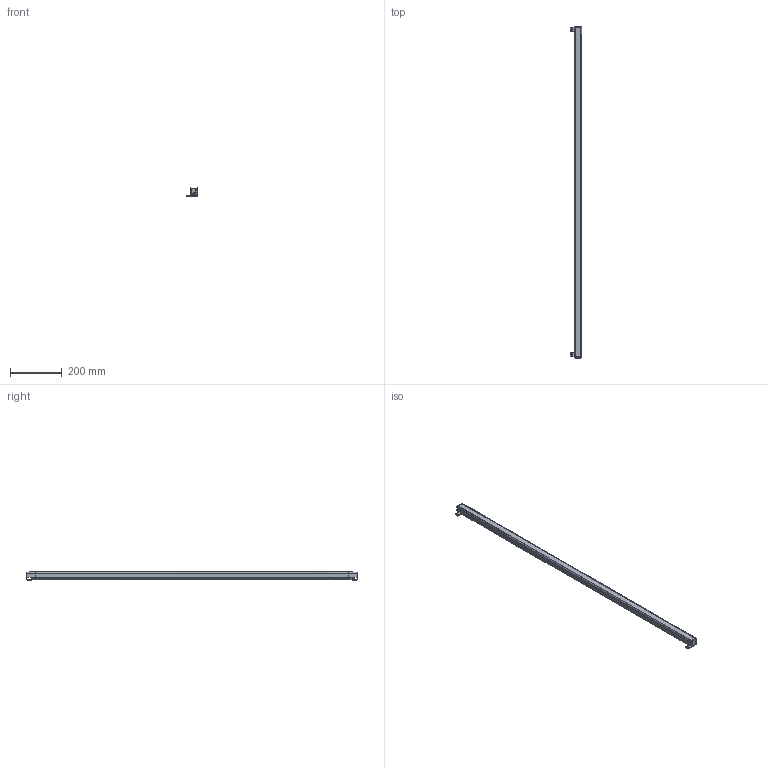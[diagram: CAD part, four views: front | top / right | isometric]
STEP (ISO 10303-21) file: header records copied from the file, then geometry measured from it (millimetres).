
FILE_DESCRIPTION(/* description */ (''),/* implementation_level */ '2;1');
FILE_NAME(/* name */ '3240(30X30).stp',/* time_stamp */ '2019-02-25T17:23:35+08:00',/* author */ (''),/* organization */ (''),/* preprocessor_version */ 'ST-DEVELOPER v16',/* originating_system */ 'SIEMENS PLM Software NX 10.0',/* authorisation */ '');
FILE_SCHEMA (('AP203_CONFIGURATION_CONTROLLED_3D_DESIGN_OF_MECHANICAL_PARTS_AND_ASSEMBLIES_MIM_LF { 1 0 10303 403 2 1 2}'));
Length unit declared in the file: millimetre
Products named in the file (1): Admi16E0AF18h5um
Bounding box: 44.89 x 1288.4 x 31.39 mm (x, y, z)
Volume: 398705.8 mm3; surface area: 423281.6 mm2
Topology: 6 solids, 6 shells, 441 faces, 1311 edges, 871 vertices
Faces by surface type: plane 256, cylinder 132, cone 32, bspline 14, extrusion 7
Full cylindrical faces by diameter (mm): 1.5 x2, 3.2 x8, 3.5 x8
Entity records: 15650 total; most frequent: CARTESIAN_POINT 3843, ORIENTED_EDGE 2528, DIRECTION 2314, EDGE_CURVE 1264, VECTOR 856, VERTEX_POINT 855, LINE 849, AXIS2_PLACEMENT_3D 729
